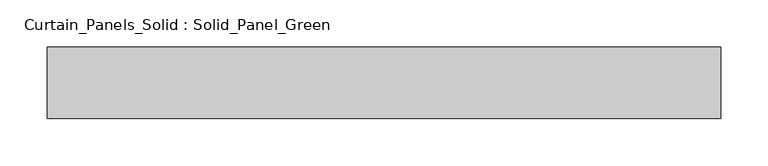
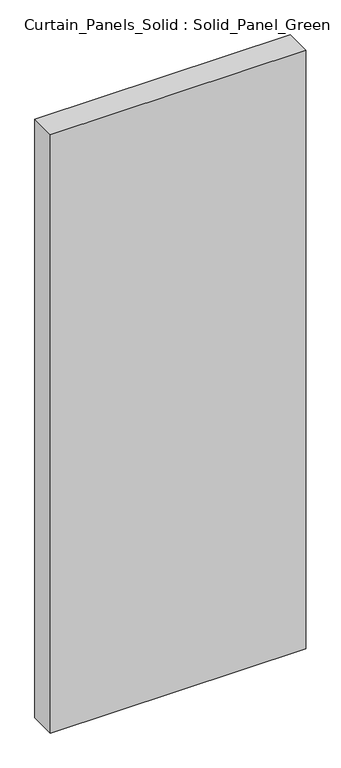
"""IFC4 building model written with IfcOpenShell, lengths in millimetres: plate geometry, Curtain_Panels_Solid : Solid_Panel_Green."""

from ifc_helpers import new_model, si_unit, origin, origin_with_axes, place, context, project, spatial, polyline, outline, extrude, source, transform, mapped, element, save


def curtain_panels_solid_solid_panel_green_16f00973(model_context):
    return source(origin(), model_context, "Body", "SweptSolid", [
        extrude(outline(polyline([(355.0, 25.0), (355.0, -50.0), (-355.0, -50.0), (-355.0, 25.0), (355.0, 25.0)])), origin_with_axes(), (0.0, 0.0, 1.0), 1760.0),
    ])


if __name__ == "__main__":
    model = new_model("IFC4")
    model_context = context("Model", 3, world=origin())
    ifc_project = project(units=[si_unit("LENGTHUNIT", "METRE", prefix="MILLI")], contexts=[model_context])
    site = spatial("IfcSite", under=ifc_project)
    building = spatial("IfcBuilding", under=site)
    placement = place(None, origin())
    curtain_panels_solid_solid_panel_green_shape = curtain_panels_solid_solid_panel_green_16f00973(model_context)
    element("IfcPlate", 1, ObjectType="Curtain_Panels_Solid : Solid_Panel_Green", at=placement, inside=building, context=model_context, shape_type="MappedRepresentation", body=[
        mapped(curtain_panels_solid_solid_panel_green_shape, transform((0.0, 0.0, 0.0), x_axis=(1.0, 0.0, 0.0), y_axis=(0.0, 1.0, 0.0), z_axis=(0.0, 0.0, 1.0))),
    ])
    save(model, "model.ifc")
